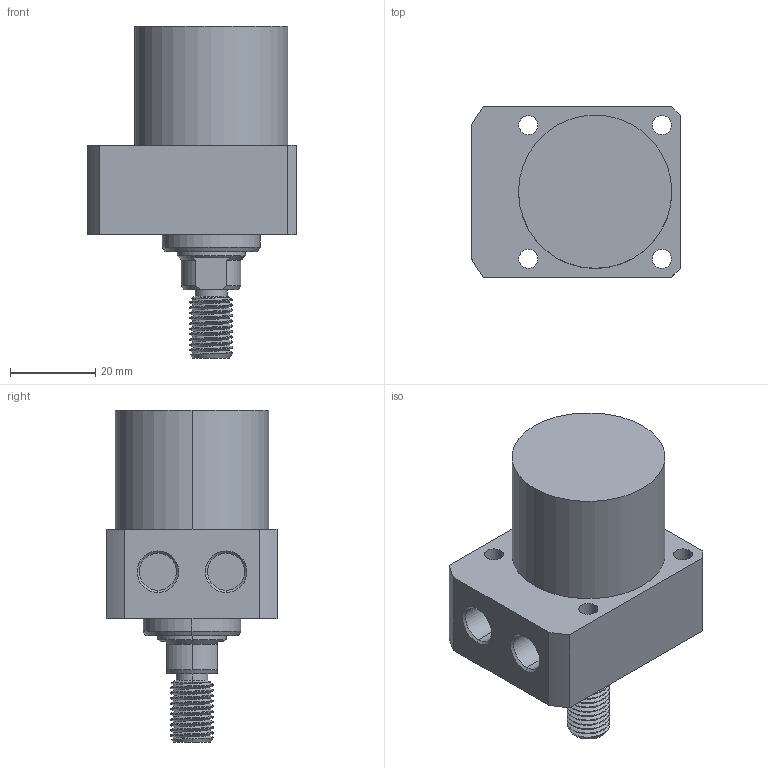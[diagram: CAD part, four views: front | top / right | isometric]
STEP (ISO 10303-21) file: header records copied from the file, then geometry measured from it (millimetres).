
FILE_DESCRIPTION (( 'STEP AP214' ), '1' );
FILE_NAME ('CLLR-036CT-020.STEP', '2020-01-08T10:16:00', ( 'Windows' ), ( 'Microsoft' ), 'SwSTEP 2.0', 'SolidWorks 2015', '' );
FILE_SCHEMA (( 'AUTOMOTIVE_DESIGN' ));
Length unit declared in the file: millimetre
Products named in the file (1): CLLR-036CT-020
Bounding box: 49 x 40 x 78 mm (x, y, z)
Volume: 70483 mm3; surface area: 13861.8 mm2
Topology: 1 solids, 1 shells, 89 faces, 223 edges, 144 vertices
Faces by surface type: cylinder 51, plane 21, cone 15, bspline 2
Entity records: 3976 total; most frequent: CARTESIAN_POINT 1842, ORIENTED_EDGE 446, DIRECTION 419, EDGE_CURVE 223, AXIS2_PLACEMENT_3D 164, VERTEX_POINT 144, EDGE_LOOP 105, LINE 91
